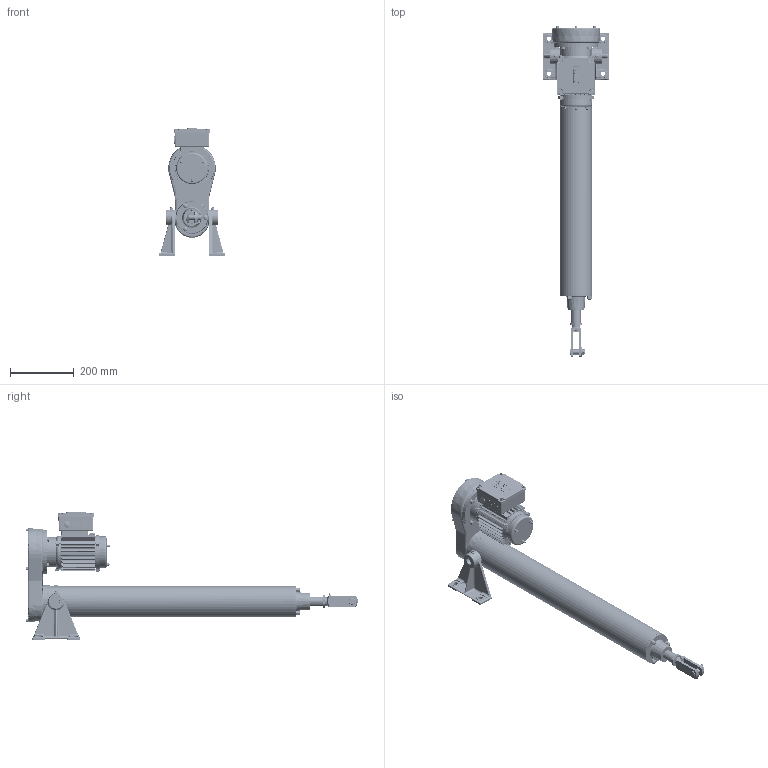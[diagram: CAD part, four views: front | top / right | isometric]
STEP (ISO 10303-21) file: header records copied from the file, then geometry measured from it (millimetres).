
FILE_DESCRIPTION( ( '153-599-4' ), '1' );
FILE_NAME( 'C:/daten/bearbeitung katalogbilder/RBs rendern/austausch pomplun/mit identnr/T1C4-0600-160-188-1.stp', 'Unknown', ( 'Christoph Hahmann' ), ( 'RACO-ELEKTRO-MASCHINEN GmbH' ), 'PSStep 17.0.49', 'Solid Edge ST 7', ' ' );
FILE_SCHEMA( ( 'AUTOMOTIVE_DESIGN { 1 0 10303 214 1 1 1 1 }' ) );
Length unit declared in the file: millimetre
Products named in the file (10): Assem1; 03.01-04 kpl; 02.14-04-0600; 02.01-04 kpl; 01.15-04-0600; 01.01-04 kpl Gabelkopf; 12. 1-04; 12.02-04; 03.65-04-105-052-4-2 Füße; BGR 4
Assembly tree (9 placements, depth 2):
  Assem1
    03.01-04 kpl
    02.14-04-0600
    02.01-04 kpl
    01.15-04-0600
    01.01-04 kpl Gabelkopf
    12. 1-04
    12.02-04
    03.65-04-105-052-4-2 Füße
    BGR 4
Bounding box: 209 x 1043.58 x 400.1 mm (x, y, z)
Surface area: 1095360.9 mm2 (no closed solid volume)
Topology: 0 solids, 5553 shells, 5553 faces, 29349 edges, 28774 vertices
Faces by surface type: plane 2964, cylinder 1350, torus 383, cone 308, bspline 295, extrusion 145, sphere 108
Full cylindrical faces by diameter (mm): 1.6 x2, 2 x1, 2.459 x12, 3 x8, 3.141 x6, 3.242 x22, 3.5 x1, 4 x15, 4.02 x5, 4.134 x18, 4.8 x9, 4.917 x2, 5 x16, 5.1 x1, 5.3 x5, 5.4 x5, 5.5 x8, 5.7 x3, 6.47 x4, 6.647 x3, 6.917 x2, 7 x6, 7.33 x1, 7.5 x3, 8 x12, 8.4 x4, 8.5 x7, 8.9 x4, 9 x4, 9.15 x3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
Entity records: 391731 total; most frequent: CARTESIAN_POINT 132637, DIRECTION 46213, VERTEX_POINT 28522, ORIENTED_EDGE 28486, EDGE_CURVE 28486, AXIS2_PLACEMENT_3D 15662, VECTOR 14889, LINE 14744
